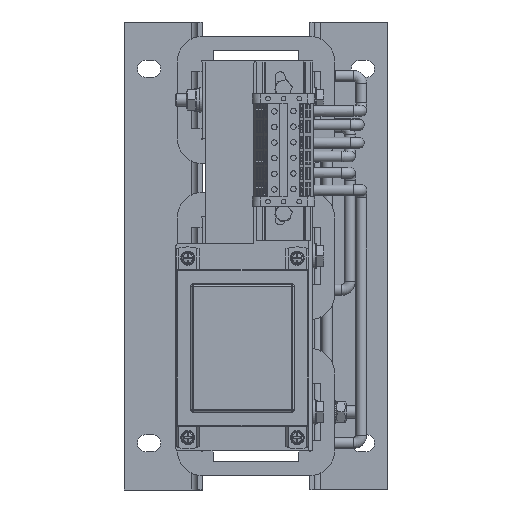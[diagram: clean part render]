
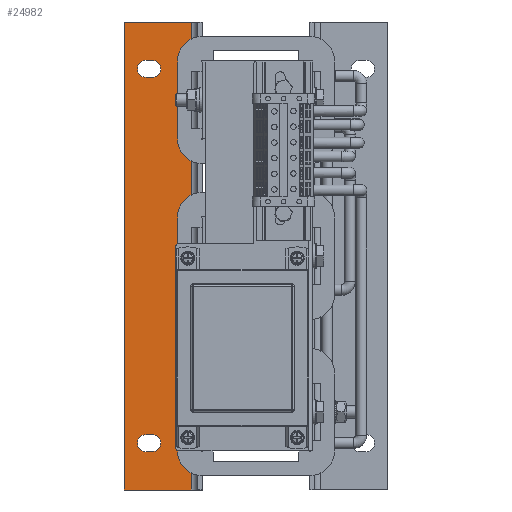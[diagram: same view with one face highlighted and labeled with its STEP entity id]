
A CAD part, left-side view. The second image highlights one B-rep face of the part: STEP entity #24982.
In plain terms, the highlighted planar face has unit normal (-1, 0, 0).
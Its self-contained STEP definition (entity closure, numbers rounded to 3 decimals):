
#24681=CARTESIAN_POINT('',(162.299,33.847,455.088));
#24682=VERTEX_POINT('',#24681);
#24690=CARTESIAN_POINT('',(162.299,76.847,455.088));
#24691=VERTEX_POINT('',#24690);
#24692=CARTESIAN_POINT('',(162.299,76.847,455.088));
#24693=DIRECTION('',(0.0,-1.0,0.0));
#24694=VECTOR('',#24693,43.);
#24695=LINE('',#24692,#24694);
#24696=EDGE_CURVE('',#24691,#24682,#24695,.T.);
#24766=CARTESIAN_POINT('',(162.299,76.847,755.088));
#24767=VERTEX_POINT('',#24766);
#24768=CARTESIAN_POINT('',(162.299,76.847,755.088));
#24769=DIRECTION('',(0.0,0.0,-1.0));
#24770=VECTOR('',#24769,300.0);
#24771=LINE('',#24768,#24770);
#24772=EDGE_CURVE('',#24767,#24691,#24771,.T.);
#24887=CARTESIAN_POINT('',(162.299,76.847,605.088));
#24888=DIRECTION('',(-1.0,0.0,0.0));
#24889=DIRECTION('',(0.0,0.0,1.0));
#24890=AXIS2_PLACEMENT_3D('',#24887,#24888,#24889);
#24891=PLANE('',#24890);
#24892=CARTESIAN_POINT('',(162.299,33.847,755.088));
#24893=VERTEX_POINT('',#24892);
#24894=CARTESIAN_POINT('',(162.299,33.847,755.088));
#24895=DIRECTION('',(0.0,0.0,-1.0));
#24896=VECTOR('',#24895,300.0);
#24897=LINE('',#24894,#24896);
#24898=EDGE_CURVE('',#24893,#24682,#24897,.T.);
#24899=ORIENTED_EDGE('',*,*,#24898,.F.);
#24900=CARTESIAN_POINT('',(162.299,33.847,755.088));
#24901=DIRECTION('',(0.0,1.0,0.0));
#24902=VECTOR('',#24901,43.0);
#24903=LINE('',#24900,#24902);
#24904=EDGE_CURVE('',#24893,#24767,#24903,.T.);
#24905=ORIENTED_EDGE('',*,*,#24904,.T.);
#24906=ORIENTED_EDGE('',*,*,#24772,.T.);
#24907=ORIENTED_EDGE('',*,*,#24696,.T.);
#24908=EDGE_LOOP('',(#24899,#24905,#24906,#24907));
#24909=FACE_OUTER_BOUND('',#24908,.T.);
#24910=CARTESIAN_POINT('',(162.299,58.847,719.588));
#24911=VERTEX_POINT('',#24910);
#24912=CARTESIAN_POINT('',(162.299,62.847,719.588));
#24913=VERTEX_POINT('',#24912);
#24914=CARTESIAN_POINT('',(162.299,58.847,719.588));
#24915=DIRECTION('',(0.0,1.0,0.0));
#24916=VECTOR('',#24915,4.0);
#24917=LINE('',#24914,#24916);
#24918=EDGE_CURVE('',#24911,#24913,#24917,.T.);
#24919=ORIENTED_EDGE('',*,*,#24918,.T.);
#24920=CARTESIAN_POINT('',(162.299,62.847,730.588));
#24921=VERTEX_POINT('',#24920);
#24922=CARTESIAN_POINT('',(162.299,62.847,725.088));
#24923=DIRECTION('',(1.0,0.0,0.0));
#24924=DIRECTION('',(0.0,1.0,0.0));
#24925=AXIS2_PLACEMENT_3D('',#24922,#24923,#24924);
#24926=CIRCLE('',#24925,5.5);
#24927=EDGE_CURVE('',#24913,#24921,#24926,.T.);
#24928=ORIENTED_EDGE('',*,*,#24927,.T.);
#24929=CARTESIAN_POINT('',(162.299,58.847,730.588));
#24930=VERTEX_POINT('',#24929);
#24931=CARTESIAN_POINT('',(162.299,62.847,730.588));
#24932=DIRECTION('',(0.0,-1.0,0.0));
#24933=VECTOR('',#24932,4.);
#24934=LINE('',#24931,#24933);
#24935=EDGE_CURVE('',#24921,#24930,#24934,.T.);
#24936=ORIENTED_EDGE('',*,*,#24935,.T.);
#24937=CARTESIAN_POINT('',(162.299,58.847,725.088));
#24938=DIRECTION('',(1.0,0.0,0.0));
#24939=DIRECTION('',(0.0,-1.0,0.0));
#24940=AXIS2_PLACEMENT_3D('',#24937,#24938,#24939);
#24941=CIRCLE('',#24940,5.5);
#24942=EDGE_CURVE('',#24930,#24911,#24941,.T.);
#24943=ORIENTED_EDGE('',*,*,#24942,.T.);
#24944=EDGE_LOOP('',(#24919,#24928,#24936,#24943));
#24945=FACE_BOUND('',#24944,.T.);
#24946=CARTESIAN_POINT('',(162.299,58.847,479.588));
#24947=VERTEX_POINT('',#24946);
#24948=CARTESIAN_POINT('',(162.299,62.847,479.588));
#24949=VERTEX_POINT('',#24948);
#24950=CARTESIAN_POINT('',(162.299,58.847,479.588));
#24951=DIRECTION('',(0.0,1.0,0.0));
#24952=VECTOR('',#24951,4.);
#24953=LINE('',#24950,#24952);
#24954=EDGE_CURVE('',#24947,#24949,#24953,.T.);
#24955=ORIENTED_EDGE('',*,*,#24954,.T.);
#24956=CARTESIAN_POINT('',(162.299,62.847,490.588));
#24957=VERTEX_POINT('',#24956);
#24958=CARTESIAN_POINT('',(162.299,62.847,485.088));
#24959=DIRECTION('',(1.0,0.0,0.0));
#24960=DIRECTION('',(0.0,1.0,0.0));
#24961=AXIS2_PLACEMENT_3D('',#24958,#24959,#24960);
#24962=CIRCLE('',#24961,5.5);
#24963=EDGE_CURVE('',#24949,#24957,#24962,.T.);
#24964=ORIENTED_EDGE('',*,*,#24963,.T.);
#24965=CARTESIAN_POINT('',(162.299,58.847,490.588));
#24966=VERTEX_POINT('',#24965);
#24967=CARTESIAN_POINT('',(162.299,62.847,490.588));
#24968=DIRECTION('',(0.0,-1.0,0.0));
#24969=VECTOR('',#24968,4.);
#24970=LINE('',#24967,#24969);
#24971=EDGE_CURVE('',#24957,#24966,#24970,.T.);
#24972=ORIENTED_EDGE('',*,*,#24971,.T.);
#24973=CARTESIAN_POINT('',(162.299,58.847,485.088));
#24974=DIRECTION('',(1.0,0.0,0.0));
#24975=DIRECTION('',(0.0,-1.0,0.0));
#24976=AXIS2_PLACEMENT_3D('',#24973,#24974,#24975);
#24977=CIRCLE('',#24976,5.5);
#24978=EDGE_CURVE('',#24966,#24947,#24977,.T.);
#24979=ORIENTED_EDGE('',*,*,#24978,.T.);
#24980=EDGE_LOOP('',(#24955,#24964,#24972,#24979));
#24981=FACE_BOUND('',#24980,.T.);
#24982=ADVANCED_FACE('',(#24909,#24945,#24981),#24891,.T.);
